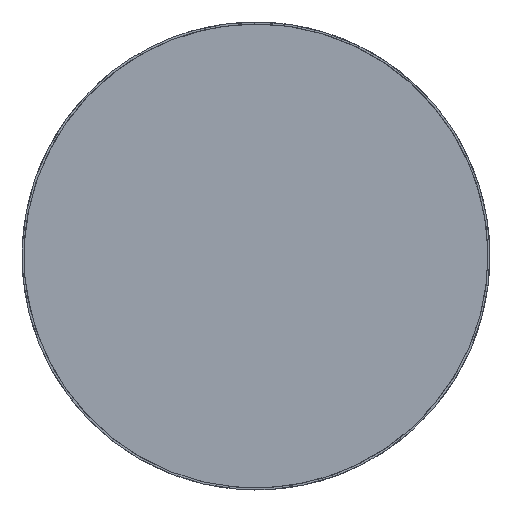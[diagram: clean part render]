
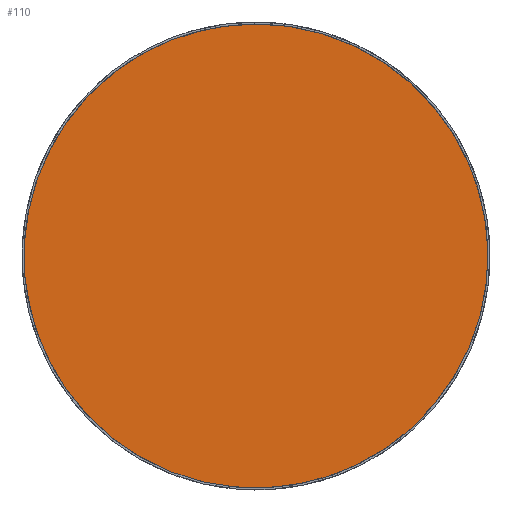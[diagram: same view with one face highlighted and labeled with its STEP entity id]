
A CAD part, top view. The second image highlights one B-rep face of the part: STEP entity #110.
In plain terms, the highlighted free-form (B-spline) face has degree [1, 1] with [2, 2] control points.
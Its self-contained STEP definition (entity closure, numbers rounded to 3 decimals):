
#110=ADVANCED_FACE('',(#174),#1977,.T.);
#174=FACE_OUTER_BOUND('',#240,.T.);
#240=EDGE_LOOP('',(#526,#527));
#526=ORIENTED_EDGE('',*,*,#1676,.F.);
#527=ORIENTED_EDGE('',*,*,#1680,.T.);
#811=PCURVE('',#2004,#1101);
#816=PCURVE('',#1977,#1106);
#817=PCURVE('',#1977,#1107);
#820=PCURVE('',#2005,#1110);
#1101=DEFINITIONAL_REPRESENTATION('',(#1380),#5391);
#1106=DEFINITIONAL_REPRESENTATION('',(#1840),#5391);
#1107=DEFINITIONAL_REPRESENTATION('',(#1842),#5391);
#1110=DEFINITIONAL_REPRESENTATION('',(#1385),#5391);
#1380=B_SPLINE_CURVE_WITH_KNOTS('',1,(#5319,#5320),.UNSPECIFIED.,.F.,.F.,
(2,2),(-2199.115,0.),.UNSPECIFIED.);
#1385=B_SPLINE_CURVE_WITH_KNOTS('',1,(#5366,#5367),.UNSPECIFIED.,.F.,.F.,
(2,2),(2199.115,4398.23),.UNSPECIFIED.);
#1529=SURFACE_CURVE('',#1834,(#811,#816),.PCURVE_S1.);
#1533=SURFACE_CURVE('',#1841,(#817,#820),.PCURVE_S1.);
#1676=EDGE_CURVE('',#1942,#1940,#1529,.T.);
#1680=EDGE_CURVE('',#1942,#1940,#1533,.T.);
#1834=(
BOUNDED_CURVE()
B_SPLINE_CURVE(2,(#5314,#5315,#5316,#5317,#5318),.UNSPECIFIED.,.F.,.F.)
B_SPLINE_CURVE_WITH_KNOTS((3,2,3),(-2199.115,-1099.557,
0.),.UNSPECIFIED.)
CURVE()
GEOMETRIC_REPRESENTATION_ITEM()
RATIONAL_B_SPLINE_CURVE((1.,0.707,1.,0.707,1.))
REPRESENTATION_ITEM('')
);
#1840=(
BOUNDED_CURVE()
B_SPLINE_CURVE(2,(#5347,#5348,#5349,#5350,#5351),.UNSPECIFIED.,.F.,.F.)
B_SPLINE_CURVE_WITH_KNOTS((3,2,3),(-2199.115,-1099.557,
0.),.UNSPECIFIED.)
CURVE()
GEOMETRIC_REPRESENTATION_ITEM()
RATIONAL_B_SPLINE_CURVE((1.,0.707,1.,0.707,1.))
REPRESENTATION_ITEM('')
);
#1841=(
BOUNDED_CURVE()
B_SPLINE_CURVE(2,(#5352,#5353,#5354,#5355,#5356),.UNSPECIFIED.,.F.,.F.)
B_SPLINE_CURVE_WITH_KNOTS((3,2,3),(2199.115,3298.672,4398.23),
 .UNSPECIFIED.)
CURVE()
GEOMETRIC_REPRESENTATION_ITEM()
RATIONAL_B_SPLINE_CURVE((1.,0.707,1.,0.707,1.))
REPRESENTATION_ITEM('')
);
#1842=(
BOUNDED_CURVE()
B_SPLINE_CURVE(2,(#5357,#5358,#5359,#5360,#5361),.UNSPECIFIED.,.F.,.F.)
B_SPLINE_CURVE_WITH_KNOTS((3,2,3),(2199.115,3298.672,4398.23),
 .UNSPECIFIED.)
CURVE()
GEOMETRIC_REPRESENTATION_ITEM()
RATIONAL_B_SPLINE_CURVE((1.,0.707,1.,0.707,1.))
REPRESENTATION_ITEM('')
);
#1940=VERTEX_POINT('',#5307);
#1942=VERTEX_POINT('',#5309);
#1977=B_SPLINE_SURFACE_WITH_KNOTS('',1,1,((#5292,#5293),(#5294,#5295)),
 .UNSPECIFIED.,.F.,.F.,.F.,(2,2),(2,2),(-787.5,87.5),(-437.5,437.5),
 .UNSPECIFIED.);
#2004=(
BOUNDED_SURFACE()
B_SPLINE_SURFACE(2,1,((#5278,#5279),(#5280,#5281),(#5282,#5283),(#5284,
#5285),(#5286,#5287)),.UNSPECIFIED.,.F.,.F.,.F.)
B_SPLINE_SURFACE_WITH_KNOTS((3,2,3),(2,2),(0.,1099.557,2199.115),
(0.,30.),.UNSPECIFIED.)
GEOMETRIC_REPRESENTATION_ITEM()
RATIONAL_B_SPLINE_SURFACE(((1.,1.),(0.707,0.707),
(1.,1.),(0.707,0.707),(1.,1.)))
REPRESENTATION_ITEM('')
SURFACE()
);
#2005=(
BOUNDED_SURFACE()
B_SPLINE_SURFACE(2,1,((#5296,#5297),(#5298,#5299),(#5300,#5301),(#5302,
#5303),(#5304,#5305)),.UNSPECIFIED.,.F.,.F.,.F.)
B_SPLINE_SURFACE_WITH_KNOTS((3,2,3),(2,2),(2199.115,3298.672,
4398.23),(0.,30.),.UNSPECIFIED.)
GEOMETRIC_REPRESENTATION_ITEM()
RATIONAL_B_SPLINE_SURFACE(((1.,1.),(0.707,0.707),
(1.,1.),(0.707,0.707),(1.,1.)))
REPRESENTATION_ITEM('')
SURFACE()
);
#5278=CARTESIAN_POINT('',(-5211.957,261.857,14.751));
#5279=CARTESIAN_POINT('',(-5211.957,261.857,34.751));
#5280=CARTESIAN_POINT('',(-5211.957,-88.143,14.751));
#5281=CARTESIAN_POINT('',(-5211.957,-88.143,34.751));
#5282=CARTESIAN_POINT('',(-4861.957,-88.143,14.751));
#5283=CARTESIAN_POINT('',(-4861.957,-88.143,34.751));
#5284=CARTESIAN_POINT('',(-4511.957,-88.143,14.751));
#5285=CARTESIAN_POINT('',(-4511.957,-88.143,34.751));
#5286=CARTESIAN_POINT('',(-4511.957,261.857,14.751));
#5287=CARTESIAN_POINT('',(-4511.957,261.857,34.751));
#5292=CARTESIAN_POINT('',(-4424.457,699.357,34.751));
#5293=CARTESIAN_POINT('',(-4424.457,-175.643,34.751));
#5294=CARTESIAN_POINT('',(-5299.457,699.357,34.751));
#5295=CARTESIAN_POINT('',(-5299.457,-175.643,34.751));
#5296=CARTESIAN_POINT('',(-4511.957,261.857,14.751));
#5297=CARTESIAN_POINT('',(-4511.957,261.857,34.751));
#5298=CARTESIAN_POINT('',(-4511.957,611.857,14.751));
#5299=CARTESIAN_POINT('',(-4511.957,611.857,34.751));
#5300=CARTESIAN_POINT('',(-4861.957,611.857,14.751));
#5301=CARTESIAN_POINT('',(-4861.957,611.857,34.751));
#5302=CARTESIAN_POINT('',(-5211.957,611.857,14.751));
#5303=CARTESIAN_POINT('',(-5211.957,611.857,34.751));
#5304=CARTESIAN_POINT('',(-5211.957,261.857,14.751));
#5305=CARTESIAN_POINT('',(-5211.957,261.857,34.751));
#5307=CARTESIAN_POINT('',(-5211.957,261.857,34.751));
#5309=CARTESIAN_POINT('',(-4511.957,261.857,34.751));
#5314=CARTESIAN_POINT('',(-4511.957,261.857,34.751));
#5315=CARTESIAN_POINT('',(-4511.957,-88.143,34.751));
#5316=CARTESIAN_POINT('',(-4861.957,-88.143,34.751));
#5317=CARTESIAN_POINT('',(-5211.957,-88.143,34.751));
#5318=CARTESIAN_POINT('',(-5211.957,261.857,34.751));
#5319=CARTESIAN_POINT('',(2199.115,30.));
#5320=CARTESIAN_POINT('',(0.,30.));
#5347=CARTESIAN_POINT('',(-700.,0.));
#5348=CARTESIAN_POINT('',(-700.,350.));
#5349=CARTESIAN_POINT('',(-350.,350.));
#5350=CARTESIAN_POINT('',(0.,350.));
#5351=CARTESIAN_POINT('',(0.,0.));
#5352=CARTESIAN_POINT('',(-4511.957,261.857,34.751));
#5353=CARTESIAN_POINT('',(-4511.957,611.857,34.751));
#5354=CARTESIAN_POINT('',(-4861.957,611.857,34.751));
#5355=CARTESIAN_POINT('',(-5211.957,611.857,34.751));
#5356=CARTESIAN_POINT('',(-5211.957,261.857,34.751));
#5357=CARTESIAN_POINT('',(-700.,0.));
#5358=CARTESIAN_POINT('',(-700.,-350.));
#5359=CARTESIAN_POINT('',(-350.,-350.));
#5360=CARTESIAN_POINT('',(0.,-350.));
#5361=CARTESIAN_POINT('',(0.,0.));
#5366=CARTESIAN_POINT('',(2199.115,30.));
#5367=CARTESIAN_POINT('',(4398.23,30.));
#5391=(
GEOMETRIC_REPRESENTATION_CONTEXT(2)
PARAMETRIC_REPRESENTATION_CONTEXT()
REPRESENTATION_CONTEXT('pspace','')
);
